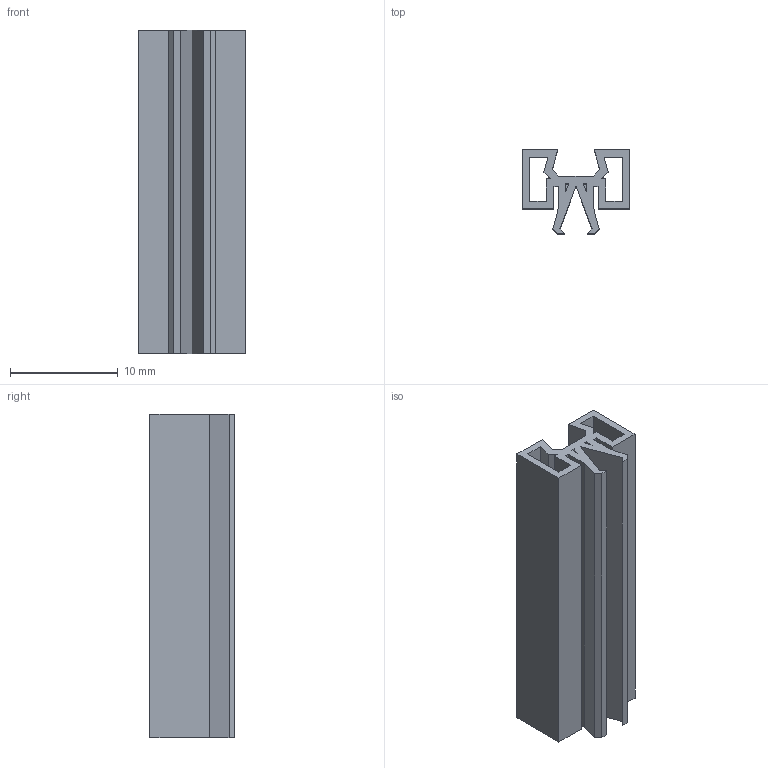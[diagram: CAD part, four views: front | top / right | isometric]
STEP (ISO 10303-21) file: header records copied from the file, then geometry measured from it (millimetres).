
FILE_DESCRIPTION(/* description */ (''),/* implementation_level */ '2;1');
FILE_NAME(/* name */ 'C:/Users/priba/Documents/Temp/Backup/Brick 1x3x0.55 v3.step',/* time_stamp */ '2019-07-02T17:29:15+02:00',/* author */ (''),/* organization */ (''),/* preprocessor_version */ 'ST-DEVELOPER v18',/* originating_system */ 'Autodesk Translation Framework v8.2.0.1029',/* authorisation */ '');
FILE_SCHEMA (('AUTOMOTIVE_DESIGN { 1 0 10303 214 3 1 1 }'));
Length unit declared in the file: millimetre
Products named in the file (1): Brick 1x3x0.55
Bounding box: 10 x 7.81 x 30 mm (x, y, z)
Volume: 977.2 mm3; surface area: 2631.2 mm2
Topology: 1 solids, 1 shells, 52 faces, 144 edges, 96 vertices
Faces by surface type: plane 52
Entity records: 1658 total; most frequent: CARTESIAN_POINT 293, ORIENTED_EDGE 288, DIRECTION 250, LINE 144, VECTOR 144, EDGE_CURVE 144, VERTEX_POINT 96, EDGE_LOOP 58
